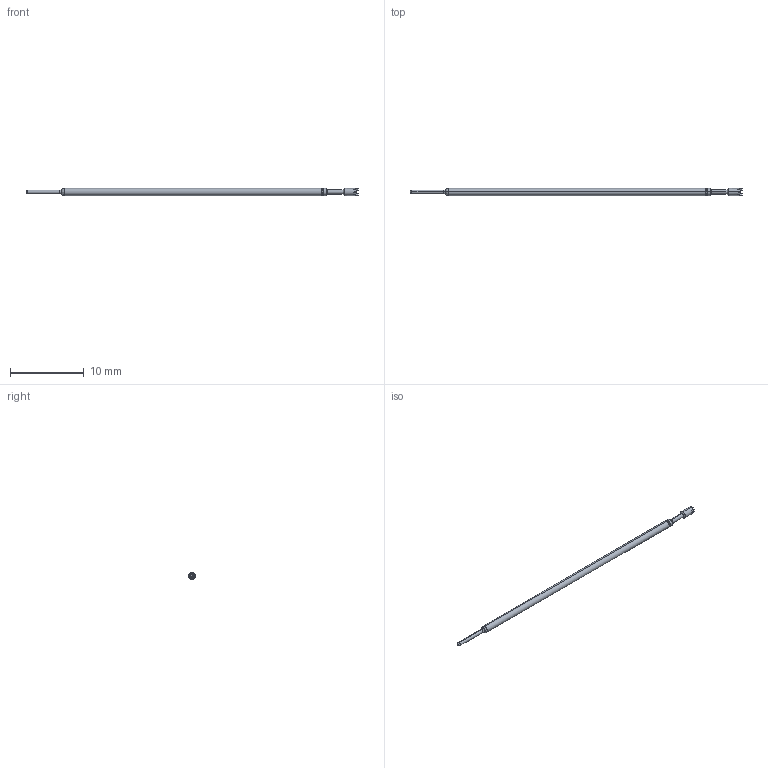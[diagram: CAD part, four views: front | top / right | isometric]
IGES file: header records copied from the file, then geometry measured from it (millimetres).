
Start section: SolidWorks IGES file using analytic representation for surfaces
Global section: file name: C:\Documents and Settings\mrumschlag\Desktop\changes\new\test\Z1 RECD.IGS; native system: SolidWorks 2011; preprocessor: SolidWorks 2011; author: mrumschlag; date: 110630.142321; units: inch
Bounding box: 45.03 x 0.97 x 0.97 mm (x, y, z)
Surface area: 129.1 mm2 (no closed solid volume)
Topology: 0 solids, 0 shells, 43 faces, 218 edges, 216 vertices
Faces by surface type: bspline 25, revolution 18
